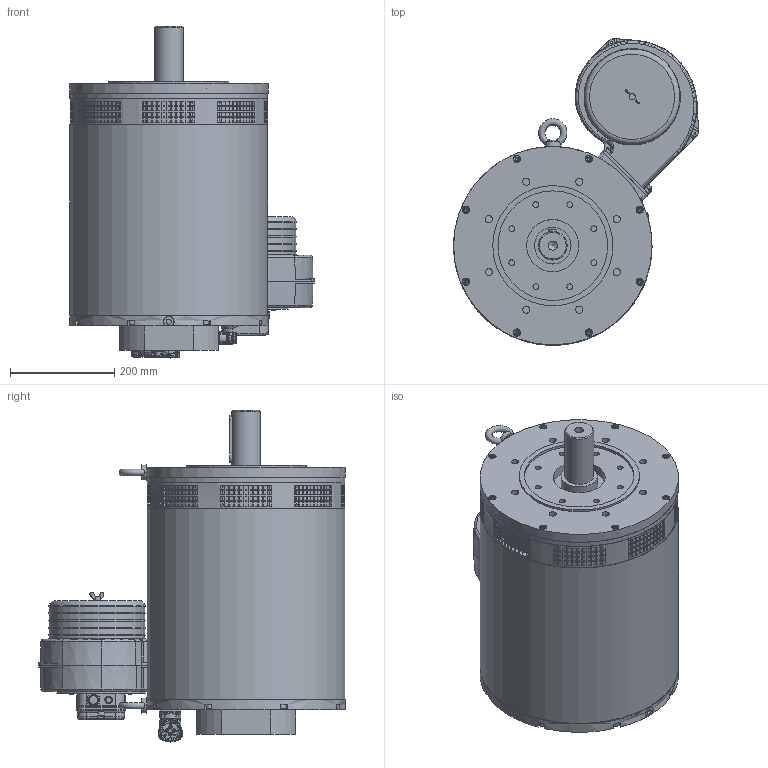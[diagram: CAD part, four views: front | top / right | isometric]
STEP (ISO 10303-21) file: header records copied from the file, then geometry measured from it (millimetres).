
FILE_DESCRIPTION(/* description */ (''),/* implementation_level */ '2;1');
FILE_NAME(/* name */ 'C:\Users\Public\Documents\Autodesk\Inventor LT 2014\Workspace\Motori Sito WEB\TG_9\STEP_DAF_9x\DAF_93_x099.stp',/* time_stamp */ '2021-06-14T14:36:17+02:00',/* author */ ('marcor'),/* organization */ (''),/* preprocessor_version */ 'ST-DEVELOPER v15.2',/* originating_system */ 'Autodesk Inventor LT ',/* authorisation */ '');
FILE_SCHEMA (('AUTOMOTIVE_DESIGN { 1 0 10303 214 3 1 1 }'));
Length unit declared in the file: millimetre
Products named in the file (1): DAF_93_x099
Bounding box: 468.81 x 587.06 x 635.55 mm (x, y, z)
Volume: 56323979.3 mm3; surface area: 2132583.6 mm2
Topology: 35 solids, 50 shells, 4827 faces, 12619 edges, 8189 vertices
Faces by surface type: plane 2631, cylinder 1440, cone 427, torus 188, bspline 120, sphere 21
Full cylindrical faces by diameter (mm): 1.431 x12, 2 x98, 2.224 x3, 2.5 x3, 2.7 x3, 2.88 x4, 3.2 x1, 3.242 x4, 3.5 x1, 3.6 x5, 4 x9, 4.3 x1, 4.8 x4, 4.917 x4, 5.4 x1, 6 x4, 6.2 x2, 6.3 x2, 6.5 x8, 6.647 x16, 7 x8, 8 x19, 8.5 x1, 9 x16, 9.853 x2, 10 x8, 10.106 x3, 11 x12, 12 x6, 13 x16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
Entity records: 157515 total; most frequent: CARTESIAN_POINT 37961, DIRECTION 24548, ORIENTED_EDGE 23626, EDGE_CURVE 11813, AXIS2_PLACEMENT_3D 9300, VERTEX_POINT 8020, EDGE_LOOP 6275, LINE 5948
